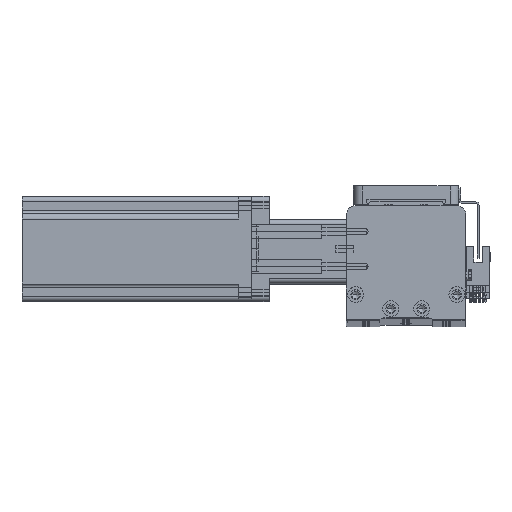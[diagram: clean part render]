
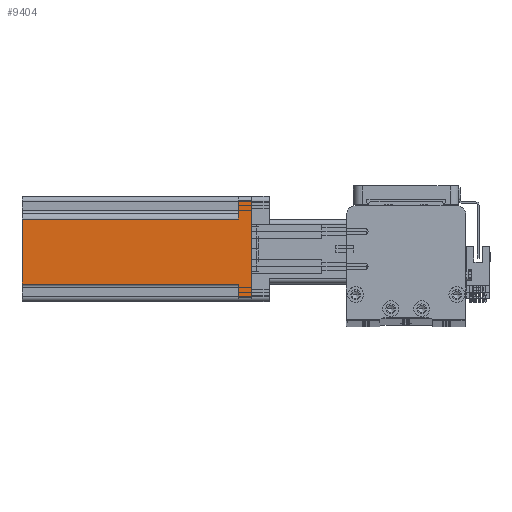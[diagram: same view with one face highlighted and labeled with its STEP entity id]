
A CAD part, top view. The second image highlights one B-rep face of the part: STEP entity #9404.
In plain terms, the highlighted planar face has unit normal (0, 0, 1) as drawn and (-1, 0, 0) by its records, which use the part's own axes.
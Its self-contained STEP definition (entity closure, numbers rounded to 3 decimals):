
#343 = VECTOR ( 'NONE', #30624, 1000. ) ;
#1149 = DIRECTION ( 'NONE',  ( 1., 0., 0. ) ) ;
#1154 = VERTEX_POINT ( 'NONE', #48366 ) ;
#1186 = ORIENTED_EDGE ( 'NONE', *, *, #32905, .T. ) ;
#1371 = VERTEX_POINT ( 'NONE', #23322 ) ;
#2498 = VECTOR ( 'NONE', #2602, 1000. ) ;
#2602 = DIRECTION ( 'NONE',  ( 0., 0., -1. ) ) ;
#2810 = CARTESIAN_POINT ( 'NONE',  ( -30., 27., 130.7 ) ) ;
#3416 = VECTOR ( 'NONE', #35143, 1000. ) ;
#5278 = EDGE_CURVE ( 'NONE', #43892, #31091, #54732, .T. ) ;
#9214 = CARTESIAN_POINT ( 'NONE',  ( -30., 30., 7.5 ) ) ;
#9404 = ADVANCED_FACE ( 'NONE', ( #15836 ), #9622, .F. ) ;
#9622 = PLANE ( 'NONE',  #36295 ) ;
#10293 = CARTESIAN_POINT ( 'NONE',  ( -30., -17., 130.7 ) ) ;
#10597 = DIRECTION ( 'NONE',  ( 0., -1., 0. ) ) ;
#11849 = LINE ( 'NONE', #39310, #343 ) ;
#12020 = CARTESIAN_POINT ( 'NONE',  ( -30., 20., 7.5 ) ) ;
#12581 = DIRECTION ( 'NONE',  ( 0., 0., 1. ) ) ;
#12860 = DIRECTION ( 'NONE',  ( 0., -1., 0. ) ) ;
#14421 = CARTESIAN_POINT ( 'NONE',  ( -30., -17., 130.7 ) ) ;
#14958 = CARTESIAN_POINT ( 'NONE',  ( -30., -30., 7.5 ) ) ;
#15836 = FACE_OUTER_BOUND ( 'NONE', #39254, .T. ) ;
#16044 = ORIENTED_EDGE ( 'NONE', *, *, #52059, .T. ) ;
#16241 = VECTOR ( 'NONE', #27887, 1000. ) ;
#18029 = VERTEX_POINT ( 'NONE', #49793 ) ;
#18157 = ORIENTED_EDGE ( 'NONE', *, *, #45862, .T. ) ;
#18486 = CARTESIAN_POINT ( 'NONE',  ( -30., 27., 0. ) ) ;
#18994 = LINE ( 'NONE', #42933, #40707 ) ;
#19276 = VERTEX_POINT ( 'NONE', #20185 ) ;
#20185 = CARTESIAN_POINT ( 'NONE',  ( -30., 20., 130.7 ) ) ;
#22539 = VECTOR ( 'NONE', #12860, 1000. ) ;
#23011 = EDGE_CURVE ( 'NONE', #19276, #33636, #11849, .T. ) ;
#23322 = CARTESIAN_POINT ( 'NONE',  ( -30., 20., 7.5 ) ) ;
#23897 = LINE ( 'NONE', #25916, #22539 ) ;
#25466 = VECTOR ( 'NONE', #29290, 1000. ) ;
#25916 = CARTESIAN_POINT ( 'NONE',  ( -30., -30., 0. ) ) ;
#26165 = ORIENTED_EDGE ( 'NONE', *, *, #42512, .F. ) ;
#27073 = CARTESIAN_POINT ( 'NONE',  ( -30., -30., 130.7 ) ) ;
#27311 = ORIENTED_EDGE ( 'NONE', *, *, #56033, .T. ) ;
#27887 = DIRECTION ( 'NONE',  ( 0., 0., 1. ) ) ;
#28009 = LINE ( 'NONE', #14958, #49753 ) ;
#28718 = ORIENTED_EDGE ( 'NONE', *, *, #5278, .T. ) ;
#29290 = DIRECTION ( 'NONE',  ( 0., 0., 1. ) ) ;
#30624 = DIRECTION ( 'NONE',  ( 0., -1., 0. ) ) ;
#31091 = VERTEX_POINT ( 'NONE', #18486 ) ;
#31407 = DIRECTION ( 'NONE',  ( 0., 0., -1. ) ) ;
#32376 = CARTESIAN_POINT ( 'NONE',  ( -30., -17., 7.5 ) ) ;
#32905 = EDGE_CURVE ( 'NONE', #46953, #33636, #49532, .T. ) ;
#33636 = VERTEX_POINT ( 'NONE', #10293 ) ;
#34222 = EDGE_CURVE ( 'NONE', #46953, #18029, #28009, .T. ) ;
#34917 = ORIENTED_EDGE ( 'NONE', *, *, #34222, .F. ) ;
#35143 = DIRECTION ( 'NONE',  ( 0., 1., 0. ) ) ;
#36295 = AXIS2_PLACEMENT_3D ( 'NONE', #27073, #1149, #31407 ) ;
#38351 = ORIENTED_EDGE ( 'NONE', *, *, #23011, .F. ) ;
#39254 = EDGE_LOOP ( 'NONE', ( #34917, #1186, #38351, #26165, #16044, #28718, #18157, #27311 ) ) ;
#39310 = CARTESIAN_POINT ( 'NONE',  ( -30., -30., 130.7 ) ) ;
#40707 = VECTOR ( 'NONE', #12581, 1000. ) ;
#42512 = EDGE_CURVE ( 'NONE', #1371, #19276, #48561, .T. ) ;
#42933 = CARTESIAN_POINT ( 'NONE',  ( -30., -27., 130.7 ) ) ;
#43892 = VERTEX_POINT ( 'NONE', #44350 ) ;
#44350 = CARTESIAN_POINT ( 'NONE',  ( -30., 27., 7.5 ) ) ;
#45862 = EDGE_CURVE ( 'NONE', #31091, #1154, #23897, .T. ) ;
#46953 = VERTEX_POINT ( 'NONE', #32376 ) ;
#48159 = LINE ( 'NONE', #9214, #3416 ) ;
#48366 = CARTESIAN_POINT ( 'NONE',  ( -30., -27., 0. ) ) ;
#48561 = LINE ( 'NONE', #12020, #25466 ) ;
#49532 = LINE ( 'NONE', #14421, #16241 ) ;
#49753 = VECTOR ( 'NONE', #10597, 1000. ) ;
#49793 = CARTESIAN_POINT ( 'NONE',  ( -30., -27., 7.5 ) ) ;
#52059 = EDGE_CURVE ( 'NONE', #1371, #43892, #48159, .T. ) ;
#54732 = LINE ( 'NONE', #2810, #2498 ) ;
#56033 = EDGE_CURVE ( 'NONE', #1154, #18029, #18994, .T. ) ;
